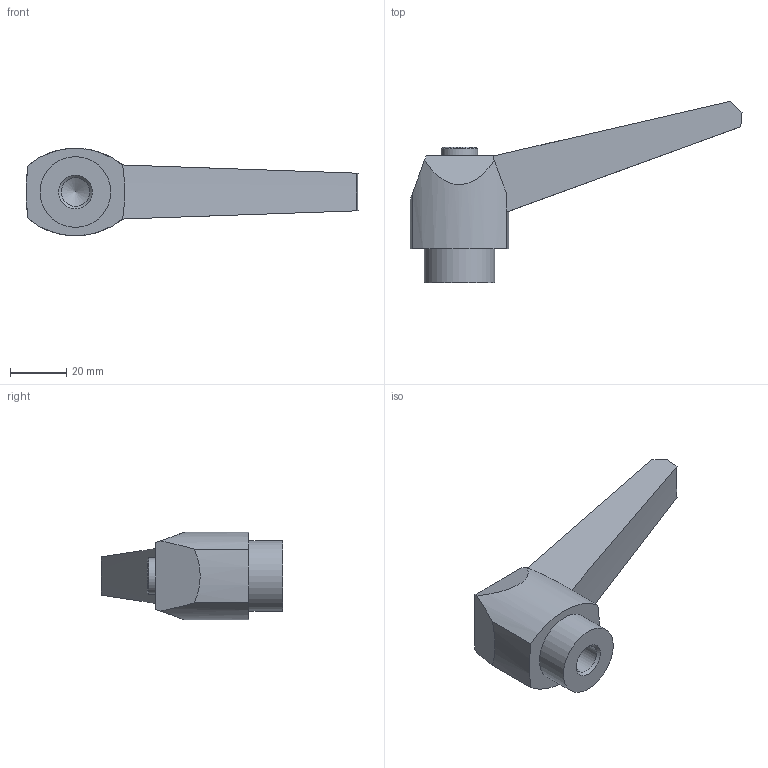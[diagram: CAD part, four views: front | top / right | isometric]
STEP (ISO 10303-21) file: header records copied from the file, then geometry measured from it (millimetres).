
FILE_DESCRIPTION( ( 'STEP AP203' ), '1' );
FILE_NAME( 'C:/Temp/Ganter_Step_05_03_2020/data/2_1/gn_500/gn_500_mb/Adjustable hand lever GN 500-100-M12-SW.stp', '2020-03-05T11:26:29', ( 'License CC BY-ND 4.0' ), ( 'CADENAS' ), ' ', 'PARTsolutions', ' ' );
FILE_SCHEMA( ( 'CONFIG_CONTROL_DESIGN' ) );
Length unit declared in the file: millimetre
Products named in the file (1): _Adjustable hand lever GN 500-100-M12-SW
Bounding box: 117.62 x 64.28 x 31 mm (x, y, z)
Volume: 54474.2 mm3; surface area: 12113.9 mm2
Topology: 1 solids, 1 shells, 24 faces, 58 edges, 38 vertices
Faces by surface type: plane 10, cone 7, cylinder 7
Full cylindrical faces by diameter (mm): 10.106 x1, 13 x1, 25 x1
Entity records: 713 total; most frequent: CARTESIAN_POINT 125, DIRECTION 118, ORIENTED_EDGE 100, EDGE_CURVE 50, AXIS2_PLACEMENT_3D 47, VERTEX_POINT 37, EDGE_LOOP 32, FACE_OUTER_BOUND 27
